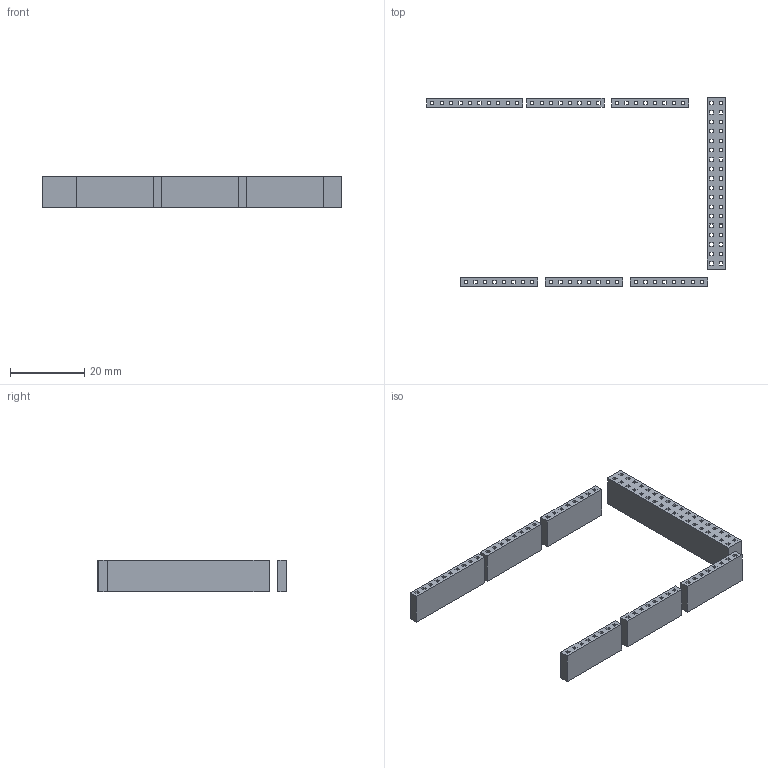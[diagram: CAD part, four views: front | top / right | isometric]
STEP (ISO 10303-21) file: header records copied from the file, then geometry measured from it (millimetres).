
FILE_DESCRIPTION(('FreeCAD Model'),'2;1');
FILE_NAME('Open CASCADE Shape Model','2026-10-23T11:35:10',('FreeCAD'),( 'FreeCAD'),'Open CASCADE STEP processor 7.9','FreeCAD','Unknown');
FILE_SCHEMA(('AUTOMOTIVE_DESIGN { 1 0 10303 214 1 1 1 1 }'));
Length unit declared in the file: millimetre
Products named in the file (1): Open CASCADE STEP translator 7.9 1
Bounding box: 80.43 x 50.98 x 8.5 mm (x, y, z)
Volume: 4017.3 mm3; surface area: 6903.7 mm2
Topology: 7 solids, 7 shells, 386 faces, 1116 edges, 744 vertices
Faces by surface type: plane 386
Entity records: 12762 total; most frequent: CARTESIAN_POINT 2247, ORIENTED_EDGE 2232, DIRECTION 1890, EDGE_CURVE 1116, LINE 1116, VECTOR 1116, VERTEX_POINT 744, FACE_BOUND 558
